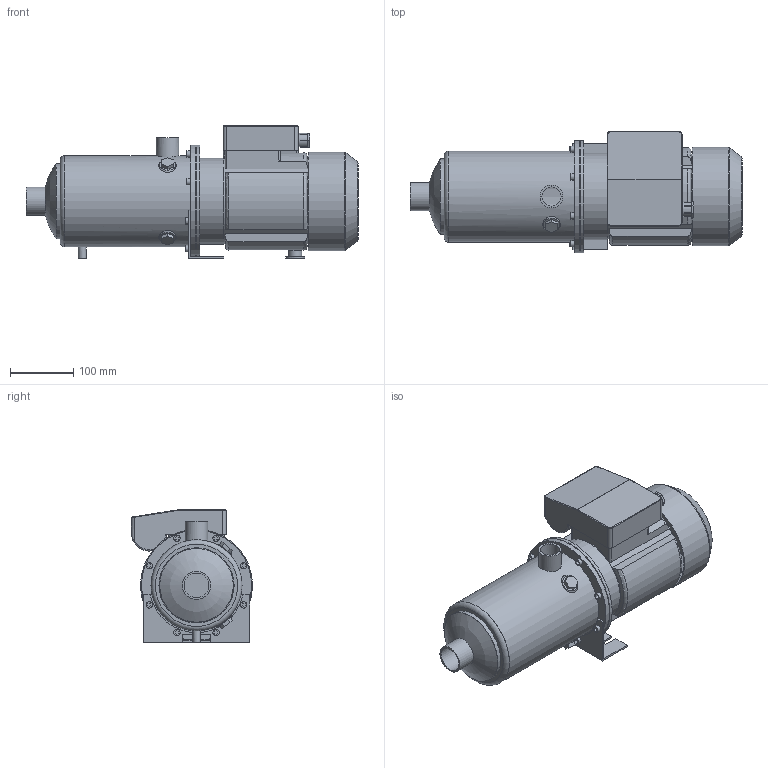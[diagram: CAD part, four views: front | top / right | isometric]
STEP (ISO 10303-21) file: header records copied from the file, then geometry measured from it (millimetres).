
FILE_DESCRIPTION(/* description */ ('Unknown'),/* implementation_level */ '2;1');
FILE_NAME(/* name */ 'MH 3 [8] M',/* time_stamp */ '2026-07-10T14:54:47+02:00',/* author */ ('Unknown'),/* organization */ ('Unknown'),/* preprocessor_version */ 'ST-DEVELOPER v20',/* originating_system */ 'Solid Edge',/* authorisation */ 'Unknown');
FILE_SCHEMA (('AUTOMOTIVE_DESIGN {1 0 10303 214 3 1 1}'));
Length unit declared in the file: millimetre
Products named in the file (10): MH 3 [8] M; Flangia motore Tonda M80; Corpo MH 3-5 [8]; Mot_Wendy_MEC80_11-15_M; carcassa MEC 80-Wendy; Copriventola MEC 80-Wendy; Basetta MEC 80 M-Wendy_new; 1; Piedino MEC 80 int.90; Staffa 3-5-9 int.90
Assembly tree (9 placements, depth 3):
  MH 3 [8] M
    Flangia motore Tonda M80
    Corpo MH 3-5 [8]
    Mot_Wendy_MEC80_11-15_M
      carcassa MEC 80-Wendy
      Copriventola MEC 80-Wendy
      Basetta MEC 80 M-Wendy_new
      1
    Piedino MEC 80 int.90
    Staffa 3-5-9 int.90
Bounding box: 523.1 x 190.75 x 209.5 mm (x, y, z)
Volume: 2664491.6 mm3; surface area: 668335 mm2
Topology: 8 solids, 8 shells, 289 faces, 682 edges, 450 vertices
Faces by surface type: plane 170, cylinder 80, torus 19, cone 14, bspline 4, sphere 2
Full cylindrical faces by diameter (mm): 7 x4, 10 x9, 12 x2, 15 x1, 16.5 x1, 21 x1, 30 x1, 30.291 x1, 36 x1, 38.952 x1, 44.5 x1, 116.1 x1, 118.5 x1, 125 x1, 130 x3, 134 x1, 136 x1, 141.1 x1, 143.5 x1, 153.5 x1, 155.5 x1, 173.5 x1, 174.1 x1, 176.5 x2
Entity records: 9370 total; most frequent: CARTESIAN_POINT 1793, DIRECTION 1322, ORIENTED_EDGE 1184, EDGE_CURVE 592, AXIS2_PLACEMENT_3D 490, VERTEX_POINT 419, EDGE_LOOP 399, FACE_BOUND 399
